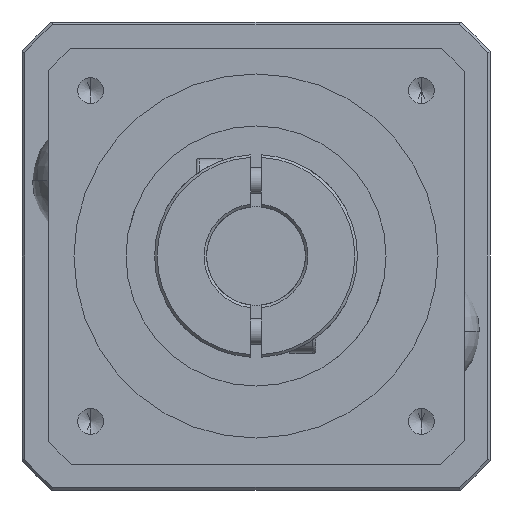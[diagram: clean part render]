
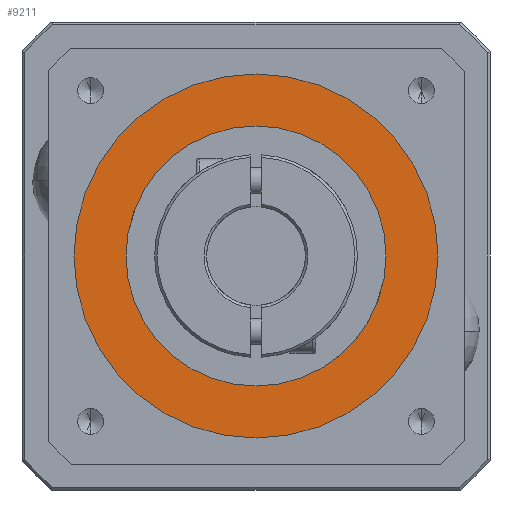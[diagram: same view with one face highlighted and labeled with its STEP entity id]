
A CAD part, left-side view. The second image highlights one B-rep face of the part: STEP entity #9211.
In plain terms, the highlighted planar face has unit normal (-1, 0, 0) as drawn and (0, 0, 1) by its records, which use the part's own axes.
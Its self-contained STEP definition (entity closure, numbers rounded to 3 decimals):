
#19 = VERTEX_POINT ( 'NONE', #1366 ) ;
#20 = EDGE_CURVE ( 'NONE', #5907, #19, #7279, .T. ) ;
#187 = AXIS2_PLACEMENT_3D ( 'NONE', #1144, #2464, #1717 ) ;
#192 = EDGE_CURVE ( 'NONE', #6627, #6703, #4485, .T. ) ;
#212 = ORIENTED_EDGE ( 'NONE', *, *, #838, .T. ) ;
#423 = DIRECTION ( 'NONE',  ( 1., 0., 0. ) ) ;
#566 = DIRECTION ( 'NONE',  ( 1., 0., 0. ) ) ;
#743 = DIRECTION ( 'NONE',  ( 0., 0., 1. ) ) ;
#838 = EDGE_CURVE ( 'NONE', #6703, #6627, #3152, .T. ) ;
#875 = CARTESIAN_POINT ( 'NONE',  ( 0., 0., 33.5 ) ) ;
#1144 = CARTESIAN_POINT ( 'NONE',  ( 0., 0., 33.5 ) ) ;
#1246 = PLANE ( 'NONE',  #6852 ) ;
#1335 = AXIS2_PLACEMENT_3D ( 'NONE', #875, #743, #566 ) ;
#1366 = CARTESIAN_POINT ( 'NONE',  ( 25., 0., 33.5 ) ) ;
#1580 = CARTESIAN_POINT ( 'NONE',  ( 35., 0., 33.5 ) ) ;
#1717 = DIRECTION ( 'NONE',  ( 1., 0., 0. ) ) ;
#2033 = DIRECTION ( 'NONE',  ( 1., 0., 0. ) ) ;
#2101 = FACE_BOUND ( 'NONE', #4263, .T. ) ;
#2202 = ORIENTED_EDGE ( 'NONE', *, *, #2675, .F. ) ;
#2220 = DIRECTION ( 'NONE',  ( 0., 0., 1. ) ) ;
#2279 = CARTESIAN_POINT ( 'NONE',  ( -35., 0., 33.5 ) ) ;
#2464 = DIRECTION ( 'NONE',  ( 0., 0., 1. ) ) ;
#2675 = EDGE_CURVE ( 'NONE', #19, #5907, #5141, .T. ) ;
#3152 = CIRCLE ( 'NONE', #1335, 35. ) ;
#3248 = AXIS2_PLACEMENT_3D ( 'NONE', #6359, #2220, #423 ) ;
#3568 = AXIS2_PLACEMENT_3D ( 'NONE', #8548, #8596, #8589 ) ;
#4263 = EDGE_LOOP ( 'NONE', ( #2202, #5350 ) ) ;
#4485 = CIRCLE ( 'NONE', #3248, 35. ) ;
#5141 = CIRCLE ( 'NONE', #3568, 25. ) ;
#5350 = ORIENTED_EDGE ( 'NONE', *, *, #20, .F. ) ;
#5907 = VERTEX_POINT ( 'NONE', #8713 ) ;
#5939 = FACE_OUTER_BOUND ( 'NONE', #9118, .T. ) ;
#6350 = DIRECTION ( 'NONE',  ( 0., 0., 1. ) ) ;
#6359 = CARTESIAN_POINT ( 'NONE',  ( 0., 0., 33.5 ) ) ;
#6627 = VERTEX_POINT ( 'NONE', #2279 ) ;
#6703 = VERTEX_POINT ( 'NONE', #1580 ) ;
#6712 = ORIENTED_EDGE ( 'NONE', *, *, #192, .T. ) ;
#6852 = AXIS2_PLACEMENT_3D ( 'NONE', #8411, #6350, #2033 ) ;
#7279 = CIRCLE ( 'NONE', #187, 25. ) ;
#8411 = CARTESIAN_POINT ( 'NONE',  ( 0., 0., 33.5 ) ) ;
#8548 = CARTESIAN_POINT ( 'NONE',  ( 0., 0., 33.5 ) ) ;
#8589 = DIRECTION ( 'NONE',  ( 1., 0., 0. ) ) ;
#8596 = DIRECTION ( 'NONE',  ( 0., 0., 1. ) ) ;
#8713 = CARTESIAN_POINT ( 'NONE',  ( -25., 0., 33.5 ) ) ;
#9118 = EDGE_LOOP ( 'NONE', ( #212, #6712 ) ) ;
#9211 = ADVANCED_FACE ( 'NONE', ( #2101, #5939 ), #1246, .T. ) ;
